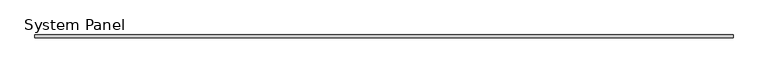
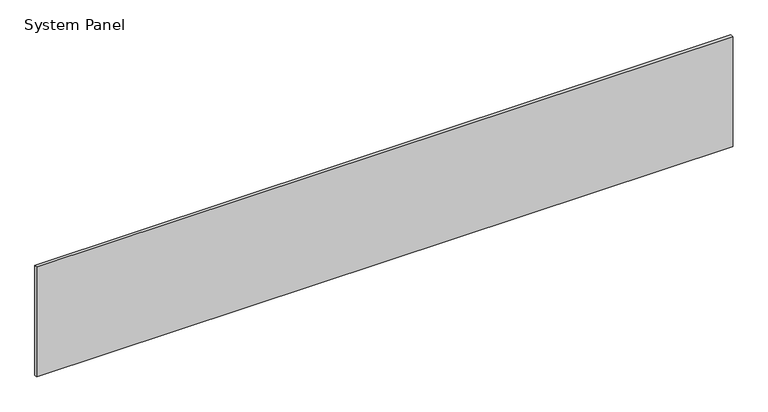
"""IFC4 building model written with IfcOpenShell, lengths in millimetres: plate geometry, System Panel : Purline 25mm Horizontal - Plain RHEA - PUR."""

from ifc_helpers import new_model, si_unit, origin, origin_with_axes, place, context, project, spatial, polyline, outline, extrude, source, transform, mapped, element, save


def system_panel_bb43c466(model_context):
    return source(origin(), model_context, "Body", "SweptSolid", [
        extrude(outline(polyline([(2990.0, -25.0), (-2990.0, -25.0), (-2990.0, 0.0), (2990.0, 0.0), (2990.0, -25.0)])), origin_with_axes(), (0.0, 0.0, 1.0), 1000.0),
    ])


if __name__ == "__main__":
    model = new_model("IFC4")
    model_context = context("Model", 3, world=origin())
    ifc_project = project(units=[si_unit("LENGTHUNIT", "METRE", prefix="MILLI")], contexts=[model_context])
    site = spatial("IfcSite", under=ifc_project)
    building = spatial("IfcBuilding", under=site)
    placement = place(None, origin())
    system_panel_shape = system_panel_bb43c466(model_context)
    element("IfcPlate", 1, ObjectType="System Panel : Purline 25mm Horizontal - Plain RHEA - PUR", at=placement, inside=building, context=model_context, shape_type="MappedRepresentation", body=[
        mapped(system_panel_shape, transform((0.0, 0.0, 0.0), x_axis=(1.0, 0.0, 0.0), y_axis=(0.0, 1.0, 0.0), z_axis=(0.0, 0.0, 1.0))),
    ])
    save(model, "model.ifc")
